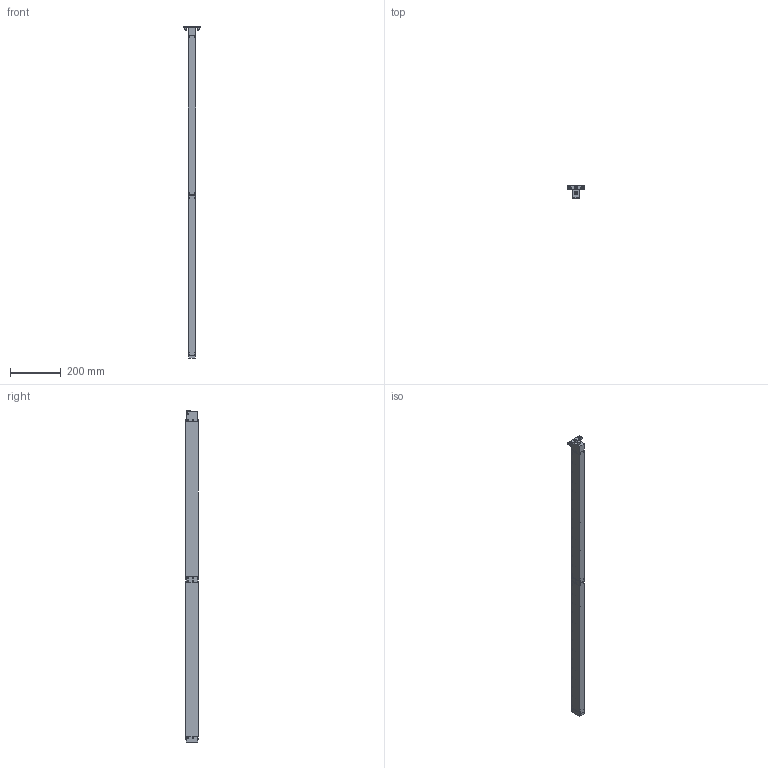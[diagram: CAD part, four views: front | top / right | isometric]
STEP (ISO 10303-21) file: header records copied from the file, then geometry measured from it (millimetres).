
FILE_DESCRIPTION(/* description */ ('DIE LIFTER'),/* implementation_level */ '2;1');
FILE_NAME(/* name */ 'S:\EASCN Vault\Designs\Standard Part\DIE LIFTERS\EHB\EHB- 3D step\EHB28 - 3D step complete serie\EHB28-28.stp',/* time_stamp */ '2019-11-27T10:02:25+08:00',/* author */ ('yue.yang'),/* organization */ (''),/* preprocessor_version */ 'ST-DEVELOPER v17',/* originating_system */ 'Autodesk Inventor 2019',/* authorisation */ '');
FILE_SCHEMA (('AUTOMOTIVE_DESIGN { 1 0 10303 214 3 1 1 }'));
Length unit declared in the file: millimetre
Products named in the file (2): EHB28-28; EHB28-28_Substitute_1
Assembly tree (1 placements, depth 2):
  EHB28-28
    EHB28-28_Substitute_1
Bounding box: 70 x 47.8 x 1309 mm (x, y, z)
Volume: 1467492.6 mm3; surface area: 376137.8 mm2
Topology: 31 solids, 31 shells, 905 faces, 2466 edges, 1734 vertices
Faces by surface type: plane 376, cylinder 283, cone 130, torus 88, sphere 28
Full cylindrical faces by diameter (mm): 3 x3, 5 x14, 5.5 x2, 6 x33, 6.5 x3, 6.647 x4, 7.5 x1, 10 x5, 10.5 x1, 11.445 x1, 12 x3, 16 x28, 20 x28, 21.5 x28, 24.05 x28, 24.2 x28
Entity records: 34246 total; most frequent: CARTESIAN_POINT 9190, DIRECTION 5278, ORIENTED_EDGE 4904, EDGE_CURVE 2452, AXIS2_PLACEMENT_3D 2234, VERTEX_POINT 1734, CIRCLE 1326, EDGE_LOOP 1150
